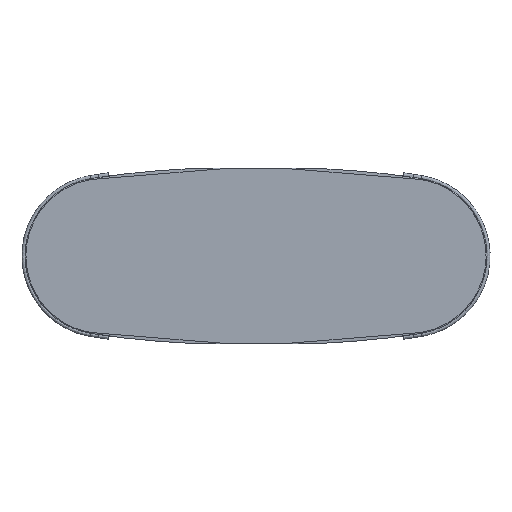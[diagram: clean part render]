
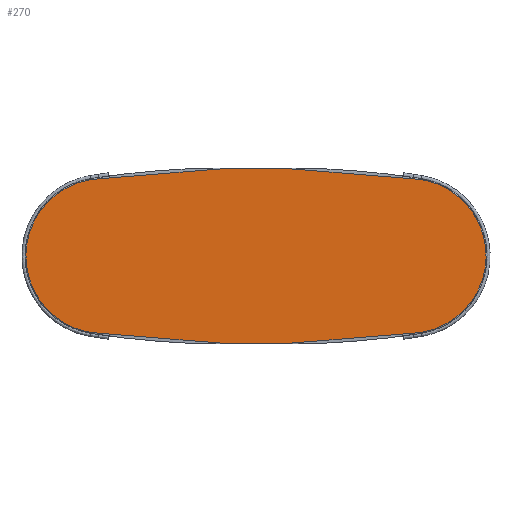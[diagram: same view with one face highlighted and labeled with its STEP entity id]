
A CAD part, top view. The second image highlights one B-rep face of the part: STEP entity #270.
In plain terms, the highlighted planar face has unit normal (0, 0, 1).
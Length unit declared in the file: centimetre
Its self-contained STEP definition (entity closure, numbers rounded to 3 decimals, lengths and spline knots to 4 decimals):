
#270=ADVANCED_FACE('',(#564),#5235,.T.);
#564=FACE_OUTER_BOUND('',#858,.T.);
#858=EDGE_LOOP('',(#1296,#1297,#1298,#1299,#1300,#1301,#1302,#1303));
#1296=ORIENTED_EDGE('',*,*,#2902,.T.);
#1297=ORIENTED_EDGE('',*,*,#2909,.T.);
#1298=ORIENTED_EDGE('',*,*,#2905,.T.);
#1299=ORIENTED_EDGE('',*,*,#2876,.T.);
#1300=ORIENTED_EDGE('',*,*,#2897,.T.);
#1301=ORIENTED_EDGE('',*,*,#2892,.T.);
#1302=ORIENTED_EDGE('',*,*,#2894,.T.);
#1303=ORIENTED_EDGE('',*,*,#2877,.T.);
#2876=EDGE_CURVE('',#4541,#4542,#4101,.T.);
#2877=EDGE_CURVE('',#4545,#4538,#4102,.T.);
#2892=EDGE_CURVE('',#4543,#4544,#3674,.T.);
#2894=EDGE_CURVE('',#4544,#4545,#3676,.T.);
#2897=EDGE_CURVE('',#4542,#4543,#3679,.T.);
#2902=EDGE_CURVE('',#4538,#4539,#3684,.T.);
#2905=EDGE_CURVE('',#4540,#4541,#3687,.T.);
#2909=EDGE_CURVE('',#4539,#4540,#3691,.T.);
#3674=(
BOUNDED_CURVE()
B_SPLINE_CURVE(2,(#6703,#6704,#6705,#6706,#6707),.UNSPECIFIED.,.F.,.F.)
B_SPLINE_CURVE_WITH_KNOTS((3,2,3),(0.,65.6395,131.279),
 .UNSPECIFIED.)
CURVE()
GEOMETRIC_REPRESENTATION_ITEM()
RATIONAL_B_SPLINE_CURVE((1.,0.763,1.,0.763,1.))
REPRESENTATION_ITEM('')
);
#3676=(
BOUNDED_CURVE()
B_SPLINE_CURVE(2,(#6711,#6712,#6713),.UNSPECIFIED.,.F.,.F.)
B_SPLINE_CURVE_WITH_KNOTS((3,3),(0.,78.8309),.UNSPECIFIED.)
CURVE()
GEOMETRIC_REPRESENTATION_ITEM()
RATIONAL_B_SPLINE_CURVE((1.,0.997,1.))
REPRESENTATION_ITEM('')
);
#3679=(
BOUNDED_CURVE()
B_SPLINE_CURVE(2,(#6720,#6721,#6722),.UNSPECIFIED.,.F.,.F.)
B_SPLINE_CURVE_WITH_KNOTS((3,3),(0.,78.8309),.UNSPECIFIED.)
CURVE()
GEOMETRIC_REPRESENTATION_ITEM()
RATIONAL_B_SPLINE_CURVE((1.,0.997,1.))
REPRESENTATION_ITEM('')
);
#3684=(
BOUNDED_CURVE()
B_SPLINE_CURVE(2,(#6735,#6736,#6737),.UNSPECIFIED.,.F.,.F.)
B_SPLINE_CURVE_WITH_KNOTS((3,3),(0.,78.8309),.UNSPECIFIED.)
CURVE()
GEOMETRIC_REPRESENTATION_ITEM()
RATIONAL_B_SPLINE_CURVE((1.,0.997,1.))
REPRESENTATION_ITEM('')
);
#3687=(
BOUNDED_CURVE()
B_SPLINE_CURVE(2,(#6744,#6745,#6746),.UNSPECIFIED.,.F.,.F.)
B_SPLINE_CURVE_WITH_KNOTS((3,3),(0.,78.8309),.UNSPECIFIED.)
CURVE()
GEOMETRIC_REPRESENTATION_ITEM()
RATIONAL_B_SPLINE_CURVE((1.,0.997,1.))
REPRESENTATION_ITEM('')
);
#3691=(
BOUNDED_CURVE()
B_SPLINE_CURVE(2,(#6756,#6757,#6758,#6759,#6760),.UNSPECIFIED.,.F.,.F.)
B_SPLINE_CURVE_WITH_KNOTS((3,2,3),(0.,65.6395,131.279),
 .UNSPECIFIED.)
CURVE()
GEOMETRIC_REPRESENTATION_ITEM()
RATIONAL_B_SPLINE_CURVE((1.,0.763,1.,0.763,1.))
REPRESENTATION_ITEM('')
);
#4101=B_SPLINE_CURVE_WITH_KNOTS('',1,(#6661,#6662),.UNSPECIFIED.,.F.,.F.,
(2,2),(-42.,0.),.UNSPECIFIED.);
#4102=B_SPLINE_CURVE_WITH_KNOTS('',1,(#6663,#6664),.UNSPECIFIED.,.F.,.F.,
(2,2),(0.,42.),.UNSPECIFIED.);
#4538=VERTEX_POINT('',#6629);
#4539=VERTEX_POINT('',#6630);
#4540=VERTEX_POINT('',#6631);
#4541=VERTEX_POINT('',#6632);
#4542=VERTEX_POINT('',#6633);
#4543=VERTEX_POINT('',#6634);
#4544=VERTEX_POINT('',#6635);
#4545=VERTEX_POINT('',#6636);
#5235=PLANE('',#5385);
#5385=AXIS2_PLACEMENT_3D('',#6004,#5519,$);
#5519=DIRECTION('',(0.,0.,1.));
#6004=CARTESIAN_POINT('',(438.7341,289.0945,37.9525));
#6629=CARTESIAN_POINT('',(293.5028,173.6697,37.9525));
#6630=CARTESIAN_POINT('',(371.9819,180.1089,37.9525));
#6631=CARTESIAN_POINT('',(371.9819,272.1611,37.9525));
#6632=CARTESIAN_POINT('',(293.5028,278.6003,37.9525));
#6633=CARTESIAN_POINT('',(251.5028,278.6003,37.9525));
#6634=CARTESIAN_POINT('',(173.0237,272.1611,37.9525));
#6635=CARTESIAN_POINT('',(173.0237,180.1089,37.9525));
#6636=CARTESIAN_POINT('',(251.5028,173.6697,37.9525));
#6661=CARTESIAN_POINT('',(293.5028,278.6003,37.9525));
#6662=CARTESIAN_POINT('',(251.5028,278.6003,37.9525));
#6663=CARTESIAN_POINT('',(251.5028,173.6697,37.9525));
#6664=CARTESIAN_POINT('',(293.5028,173.6697,37.9525));
#6703=CARTESIAN_POINT('',(173.0237,272.1611,37.9525));
#6704=CARTESIAN_POINT('',(133.9777,265.7102,37.9525));
#6705=CARTESIAN_POINT('',(133.9777,226.135,37.9525));
#6706=CARTESIAN_POINT('',(133.9777,186.5597,37.9525));
#6707=CARTESIAN_POINT('',(173.0237,180.1089,37.9525));
#6711=CARTESIAN_POINT('',(173.0237,180.1089,37.9525));
#6712=CARTESIAN_POINT('',(211.9991,173.6697,37.9525));
#6713=CARTESIAN_POINT('',(251.5028,173.6697,37.9525));
#6720=CARTESIAN_POINT('',(251.5028,278.6003,37.9525));
#6721=CARTESIAN_POINT('',(211.9991,278.6003,37.9525));
#6722=CARTESIAN_POINT('',(173.0237,272.1611,37.9525));
#6735=CARTESIAN_POINT('',(293.5028,173.6697,37.9525));
#6736=CARTESIAN_POINT('',(333.0065,173.6697,37.9525));
#6737=CARTESIAN_POINT('',(371.9819,180.1089,37.9525));
#6744=CARTESIAN_POINT('',(371.9819,272.1611,37.9525));
#6745=CARTESIAN_POINT('',(333.0065,278.6003,37.9525));
#6746=CARTESIAN_POINT('',(293.5028,278.6003,37.9525));
#6756=CARTESIAN_POINT('',(371.9819,180.1089,37.9525));
#6757=CARTESIAN_POINT('',(411.0279,186.5597,37.9525));
#6758=CARTESIAN_POINT('',(411.0279,226.135,37.9525));
#6759=CARTESIAN_POINT('',(411.0279,265.7102,37.9525));
#6760=CARTESIAN_POINT('',(371.9819,272.1611,37.9525));
